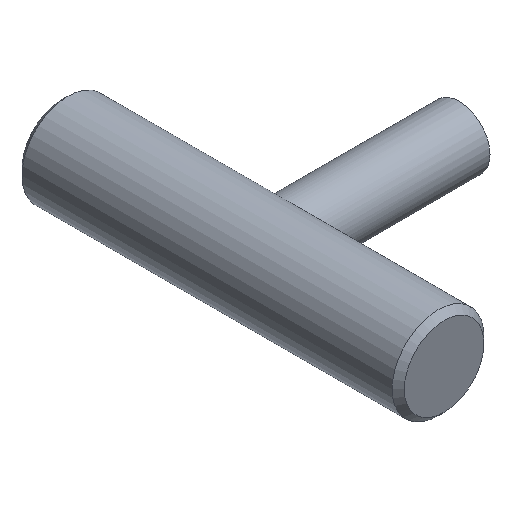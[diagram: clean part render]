
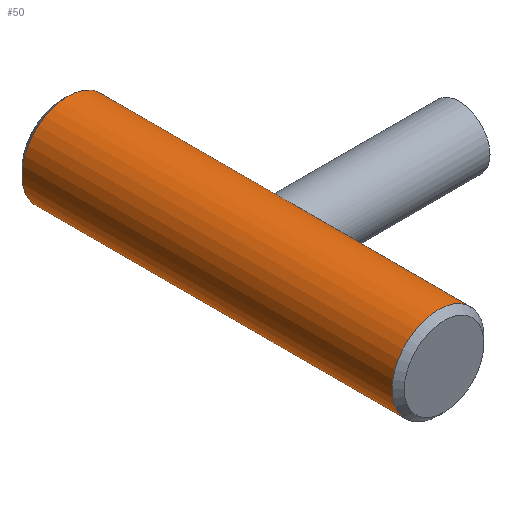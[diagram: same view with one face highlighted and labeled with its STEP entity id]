
A CAD part, isometric view. The second image highlights one B-rep face of the part: STEP entity #50.
In plain terms, the highlighted cylindrical face has radius 6 mm (diameter 12 mm), a full revolution.
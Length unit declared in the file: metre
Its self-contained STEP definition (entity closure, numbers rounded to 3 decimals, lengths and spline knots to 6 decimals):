
#50=ADVANCED_FACE('NONE',(#99,#100,#101),#102,.T.);
#99=FACE_OUTER_BOUND('',#141,.T.);
#100=FACE_OUTER_BOUND('',#142,.T.);
#101=FACE_BOUND('',#143,.T.);
#102=CYLINDRICAL_SURFACE('',#144,0.006);
#141=EDGE_LOOP('',(#193));
#142=EDGE_LOOP('',(#194));
#143=EDGE_LOOP('',(#195));
#144=AXIS2_PLACEMENT_3D('',#196,#197,#198);
#193=ORIENTED_EDGE('',*,*,#213,.F.);
#194=ORIENTED_EDGE('',*,*,#215,.F.);
#195=ORIENTED_EDGE('',*,*,#202,.T.);
#196=CARTESIAN_POINT('',(0.0,0.0,0.0));
#197=DIRECTION('',(-0.0,1.0,0.0));
#198=DIRECTION('',(1.0,0.0,0.0));
#202=EDGE_CURVE('NONE',#221,#221,#222,.T.);
#213=EDGE_CURVE('NONE',#237,#237,#238,.F.);
#215=EDGE_CURVE('NONE',#240,#240,#241,.F.);
#221=VERTEX_POINT('',#247);
#222=B_SPLINE_CURVE_WITH_KNOTS('',3,(#248,#249,#250,#251,#252,#253,#254,#255,#256,#257,#258,#259,#260,#261,#262,#263,#264,#265,#266,#267,#268,#269,#270,#271,#272,#273,#274,#275,#276,#277,#278,#279,#280,#281,#282,#283,#284,#285,#286,#287,#288,#289,#290,#291,#292,#293,#294,#295,#296,#297,#298,#299,#300,#301,#302,#303,#304,#305,#306,#307),.UNSPECIFIED.,.T.,.F.,(2,2,2,2,2,2,2,2,2,2,2,2,2,2,2,2,2,2,2,2,2,2,2,2,2,2,2,2,2,2,2,2),(0.001282,0.00209,0.002897,0.003705,0.00532,0.006128,0.006935,0.007743,0.00855,0.009358,0.010165,0.010973,0.01178,0.013395,0.014203,0.01501,0.015818,0.016625,0.01824,0.019048,0.019855,0.020663,0.02147,0.022278,0.023085,0.023893,0.0247,0.025508,0.026316,0.027123,0.027931,0.028738),.UNSPECIFIED.);
#237=VERTEX_POINT('',#322);
#238=CIRCLE('',#323,0.006);
#240=VERTEX_POINT('',#325);
#241=CIRCLE('',#326,0.006);
#247=CARTESIAN_POINT('',(0.004479,0.024759,0.003993));
#248=CARTESIAN_POINT('',(0.004493,0.024487,0.003976));
#249=CARTESIAN_POINT('',(0.004464,0.025031,0.004009));
#250=CARTESIAN_POINT('',(0.004475,0.025304,0.003997));
#251=CARTESIAN_POINT('',(0.004541,0.025831,0.003922));
#252=CARTESIAN_POINT('',(0.004597,0.02609,0.003857));
#253=CARTESIAN_POINT('',(0.004809,0.02683,0.003595));
#254=CARTESIAN_POINT('',(0.005006,0.027273,0.00333));
#255=CARTESIAN_POINT('',(0.005297,0.027843,0.002825));
#256=CARTESIAN_POINT('',(0.005393,0.028017,0.002638));
#257=CARTESIAN_POINT('',(0.005573,0.028329,0.002233));
#258=CARTESIAN_POINT('',(0.005658,0.028467,0.002012));
#259=CARTESIAN_POINT('',(0.005802,0.028698,0.001547));
#260=CARTESIAN_POINT('',(0.005864,0.028793,0.001299));
#261=CARTESIAN_POINT('',(0.005955,0.028932,0.000781));
#262=CARTESIAN_POINT('',(0.005984,0.028976,0.000513));
#263=CARTESIAN_POINT('',(0.006006,0.029009,-0.000023));
#264=CARTESIAN_POINT('',(0.005999,0.028998,-0.000296));
#265=CARTESIAN_POINT('',(0.005948,0.028922,-0.000832));
#266=CARTESIAN_POINT('',(0.005905,0.028856,-0.001096));
#267=CARTESIAN_POINT('',(0.00579,0.028678,-0.001596));
#268=CARTESIAN_POINT('',(0.005719,0.028566,-0.001831));
#269=CARTESIAN_POINT('',(0.005557,0.028301,-0.002274));
#270=CARTESIAN_POINT('',(0.005467,0.028147,-0.002482));
#271=CARTESIAN_POINT('',(0.005184,0.027638,-0.00305));
#272=CARTESIAN_POINT('',(0.004978,0.027229,-0.003361));
#273=CARTESIAN_POINT('',(0.004723,0.026535,-0.003703));
#274=CARTESIAN_POINT('',(0.004648,0.02629,-0.003795));
#275=CARTESIAN_POINT('',(0.004532,0.025778,-0.003933));
#276=CARTESIAN_POINT('',(0.004494,0.025515,-0.003976));
#277=CARTESIAN_POINT('',(0.004464,0.024978,-0.004009));
#278=CARTESIAN_POINT('',(0.004474,0.0247,-0.003998));
#279=CARTESIAN_POINT('',(0.004541,0.024169,-0.003922));
#280=CARTESIAN_POINT('',(0.004597,0.02391,-0.003857));
#281=CARTESIAN_POINT('',(0.004809,0.023169,-0.003595));
#282=CARTESIAN_POINT('',(0.005006,0.022726,-0.00333));
#283=CARTESIAN_POINT('',(0.005298,0.022155,-0.002823));
#284=CARTESIAN_POINT('',(0.005394,0.021981,-0.002637));
#285=CARTESIAN_POINT('',(0.005574,0.02167,-0.00223));
#286=CARTESIAN_POINT('',(0.005659,0.021532,-0.002009));
#287=CARTESIAN_POINT('',(0.005803,0.021301,-0.001544));
#288=CARTESIAN_POINT('',(0.005864,0.021206,-0.001295));
#289=CARTESIAN_POINT('',(0.005955,0.021067,-0.000776));
#290=CARTESIAN_POINT('',(0.005984,0.021023,-0.000508));
#291=CARTESIAN_POINT('',(0.006006,0.020991,0.000029));
#292=CARTESIAN_POINT('',(0.005998,0.021002,0.000303));
#293=CARTESIAN_POINT('',(0.005947,0.021079,0.000837));
#294=CARTESIAN_POINT('',(0.005904,0.021145,0.001099));
#295=CARTESIAN_POINT('',(0.005789,0.021324,0.001598));
#296=CARTESIAN_POINT('',(0.005718,0.021436,0.001834));
#297=CARTESIAN_POINT('',(0.005555,0.021704,0.002281));
#298=CARTESIAN_POINT('',(0.005464,0.021857,0.002488));
#299=CARTESIAN_POINT('',(0.005277,0.022195,0.002863));
#300=CARTESIAN_POINT('',(0.00518,0.022379,0.003033));
#301=CARTESIAN_POINT('',(0.004988,0.022783,0.003339));
#302=CARTESIAN_POINT('',(0.004894,0.023001,0.003474));
#303=CARTESIAN_POINT('',(0.004724,0.023462,0.003701));
#304=CARTESIAN_POINT('',(0.004648,0.023709,0.003795));
#305=CARTESIAN_POINT('',(0.004532,0.024222,0.003933));
#306=CARTESIAN_POINT('',(0.004493,0.024487,0.003976));
#307=CARTESIAN_POINT('',(0.004464,0.025031,0.004009));
#322=CARTESIAN_POINT('',(0.,0.0492,-0.006));
#323=AXIS2_PLACEMENT_3D('',#344,#345,#346);
#325=CARTESIAN_POINT('',(0.,0.0008,0.006));
#326=AXIS2_PLACEMENT_3D('',#347,#348,#349);
#344=CARTESIAN_POINT('',(0.0,0.0492,0.0));
#345=DIRECTION('',(0.0,-1.0,0.0));
#346=DIRECTION('',(0.0,0.0,-1.0));
#347=CARTESIAN_POINT('',(0.0,0.0008,0.0));
#348=DIRECTION('',(-0.0,1.0,0.0));
#349=DIRECTION('',(0.0,0.0,1.0));
